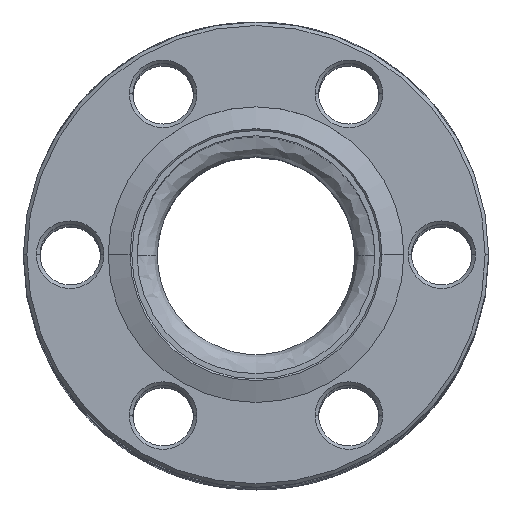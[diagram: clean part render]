
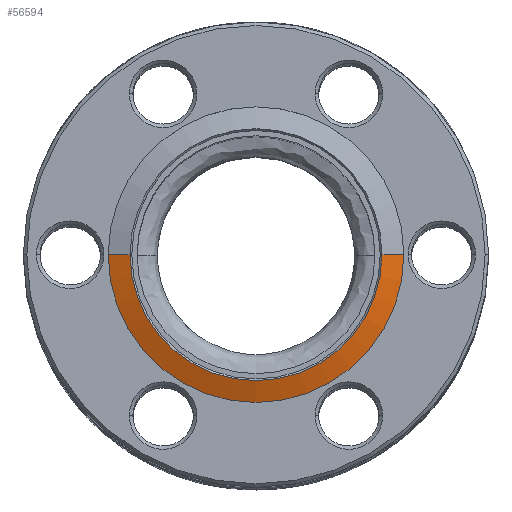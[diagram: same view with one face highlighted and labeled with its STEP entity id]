
A CAD part, top view. The second image highlights one B-rep face of the part: STEP entity #56594.
In plain terms, the highlighted conical face has half-angle 70 degrees and reference radius 9.144 mm.
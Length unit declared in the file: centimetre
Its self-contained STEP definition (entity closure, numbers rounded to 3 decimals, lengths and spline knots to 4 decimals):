
#13790 = EDGE_CURVE ( 'NONE', #31004, #31169, #114239, .T. ) ;
#14338 = EDGE_CURVE ( 'NONE', #29985, #31212, #114549, .T. ) ;
#16793 = EDGE_CURVE ( 'NONE', #29985, #31004, #115129, .T. ) ;
#17368 = EDGE_CURVE ( 'NONE', #31212, #31169, #115267, .T. ) ;
#17821 = AXIS2_PLACEMENT_3D ( 'NONE', #81026, #81025, #81021 ) ;
#29985 = VERTEX_POINT ( 'NONE', #48186 ) ;
#30813 = ORIENTED_EDGE ( 'NONE', *, *, #14338, .F. ) ;
#30874 = ORIENTED_EDGE ( 'NONE', *, *, #17368, .F. ) ;
#30875 = ORIENTED_EDGE ( 'NONE', *, *, #13790, .T. ) ;
#30957 = ORIENTED_EDGE ( 'NONE', *, *, #16793, .T. ) ;
#31004 = VERTEX_POINT ( 'NONE', #105143 ) ;
#31169 = VERTEX_POINT ( 'NONE', #105199 ) ;
#31212 = VERTEX_POINT ( 'NONE', #105206 ) ;
#35243 = FACE_OUTER_BOUND ( 'NONE', #98061, .T. ) ;
#35265 = CONICAL_SURFACE ( 'NONE', #17821, 0.9144, 1.222 ) ;
#47394 = CARTESIAN_POINT ( 'NONE',  ( 0., 0., -0.1238 ) ) ;
#47395 = DIRECTION ( 'NONE',  ( 0., 0., -1. ) ) ;
#47396 = DIRECTION ( 'NONE',  ( -1., 0., 0. ) ) ;
#48186 = CARTESIAN_POINT ( 'NONE',  ( 0.9144, 0., -0.066 ) ) ;
#56594 = ADVANCED_FACE ( 'NONE', ( #35243 ), #35265, .T. ) ;
#61184 = CARTESIAN_POINT ( 'NONE',  ( 0.9144, 0., -0.066 ) ) ;
#62261 = DIRECTION ( 'NONE',  ( 0.94, 0., -0.342 ) ) ;
#62613 = CARTESIAN_POINT ( 'NONE',  ( -0.9144, 0., -0.066 ) ) ;
#64993 = DIRECTION ( 'NONE',  ( -0.94, 0., -0.342 ) ) ;
#74413 = CARTESIAN_POINT ( 'NONE',  ( 0., 0., -0.066 ) ) ;
#74416 = DIRECTION ( 'NONE',  ( 0., 0., -1. ) ) ;
#74420 = DIRECTION ( 'NONE',  ( 1., 0., 0. ) ) ;
#81021 = DIRECTION ( 'NONE',  ( -1., 0., 0. ) ) ;
#81025 = DIRECTION ( 'NONE',  ( 0., 0., -1. ) ) ;
#81026 = CARTESIAN_POINT ( 'NONE',  ( 0., 0., -0.066 ) ) ;
#92098 = AXIS2_PLACEMENT_3D ( 'NONE', #74413, #74416, #74420 ) ;
#92178 = AXIS2_PLACEMENT_3D ( 'NONE', #47394, #47395, #47396 ) ;
#98061 = EDGE_LOOP ( 'NONE', ( #30813, #30957, #30875, #30874 ) ) ;
#105143 = CARTESIAN_POINT ( 'NONE',  ( -0.9144, 0., -0.066 ) ) ;
#105199 = CARTESIAN_POINT ( 'NONE',  ( -1.0731, 0., -0.1238 ) ) ;
#105206 = CARTESIAN_POINT ( 'NONE',  ( 1.0731, 0., -0.1238 ) ) ;
#114239 = LINE ( 'NONE', #62613, #114259 ) ;
#114259 = VECTOR ( 'NONE', #64993, 100. ) ;
#114549 = LINE ( 'NONE', #61184, #114557 ) ;
#114557 = VECTOR ( 'NONE', #62261, 100. ) ;
#115129 = CIRCLE ( 'NONE', #92098, 0.9144 ) ;
#115267 = CIRCLE ( 'NONE', #92178, 1.0731 ) ;
